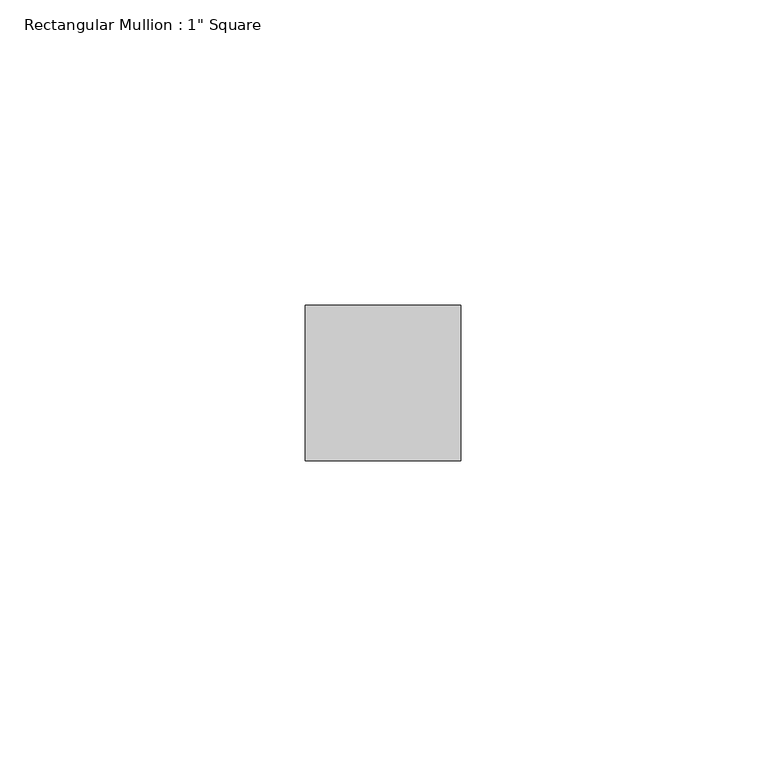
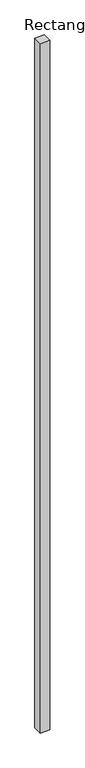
"""IFC4 building model written with IfcOpenShell, lengths in millimetres: member geometry."""

from ifc_helpers import new_model, si_unit, frame, origin, place, context, project, spatial, polyline, outline, extrude, source, transform, mapped, element, save


def member_c9893ebc(model_context):
    return source(origin(), model_context, "Body", "SweptSolid", [
        extrude(outline(polyline([(0.0, 12.7), (0.0, -12.7), (-25.4, -12.7), (-25.4, 12.7), (0.0, 12.7)])), frame((0.0, 0.0, -1935.8884591), z_axis=(0.0, 0.0, 1.0), x_axis=(1.0, 0.0, 0.0)), (0.0, 0.0, 1.0), 1935.8884591),
    ])


if __name__ == "__main__":
    model = new_model("IFC4")
    model_context = context("Model", 3, world=origin())
    ifc_project = project(units=[si_unit("LENGTHUNIT", "METRE", prefix="MILLI")], contexts=[model_context])
    site = spatial("IfcSite", under=ifc_project)
    building = spatial("IfcBuilding", under=site)
    placement = place(None, origin())
    member_shape = member_c9893ebc(model_context)
    element("IfcMember", 1, ObjectType="Rectangular Mullion : 1\" Square", at=placement, inside=building, context=model_context, shape_type="MappedRepresentation", body=[
        mapped(member_shape, transform((0.0, 0.0, 0.0), x_axis=(1.0, 0.0, 0.0), y_axis=(0.0, 1.0, 0.0), z_axis=(0.0, 0.0, 1.0))),
    ])
    save(model, "model.ifc")
